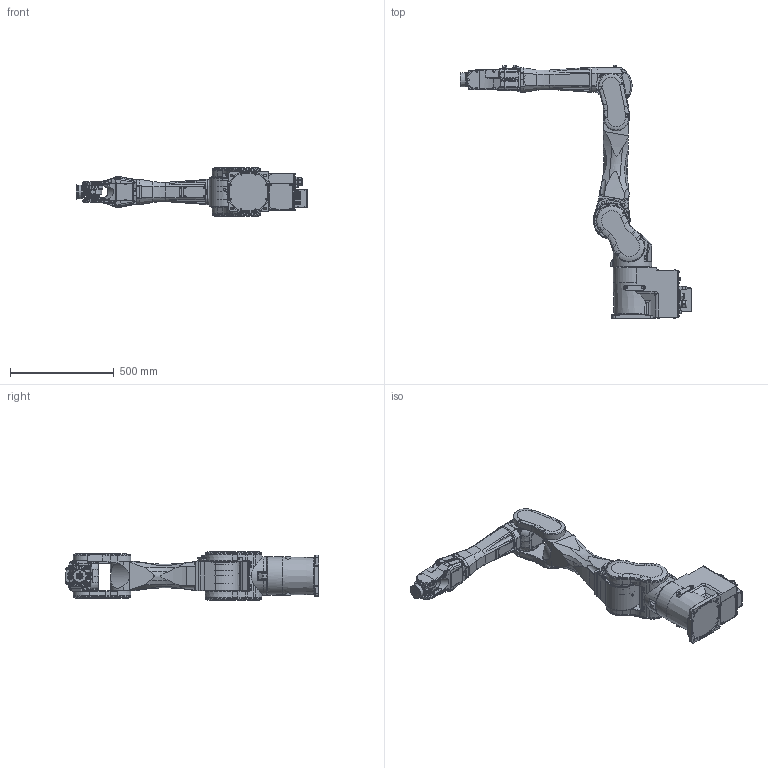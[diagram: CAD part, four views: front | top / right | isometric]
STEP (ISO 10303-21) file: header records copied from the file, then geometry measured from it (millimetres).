
FILE_DESCRIPTION(/* description */ ('STEP AP203'),/* implementation_level */ '2;1');
FILE_NAME(/* name */ 'C8-B1401S ',/* time_stamp */ '2025-09-25T09:48:56+02:00',/* author */ ('License CC BY-ND 4.0'),/* organization */ ('CADENAS'),/* preprocessor_version */ 'ST-DEVELOPER v19.3',/* originating_system */ 'PARTsolutions',/* authorisation */ ' ');
FILE_SCHEMA (('CONFIG_CONTROL_DESIGN'));
Products named in the file (8): C8-B1401S ; Base C8XLSR; J1 C8S; J2 C8XLS; J3 C8XLS (3); J4 C8XLS; J5 C8S; J6 C8S
Assembly tree (7 placements, depth 2):
  C8-B1401S 
    Base C8XLSR
    J1 C8S
    J2 C8XLS
    J3 C8XLS (3)
    J4 C8XLS
    J5 C8S
    J6 C8S
Bounding box: 1116.5 x 1222.49 x 236 mm (x, y, z)
Volume: 39439726.4 mm3; surface area: 2043652.9 mm2
Topology: 7 solids, 10 shells, 4054 faces, 10195 edges, 6608 vertices
Faces by surface type: plane 2219, cylinder 1142, cone 422, torus 226, sphere 45
Full cylindrical faces by diameter (mm): 1 x30, 2.459 x4, 3 x2, 3.242 x27, 3.3 x4, 4 x2, 4.134 x5, 4.5 x8, 5 x3, 5.4 x4, 5.5 x4, 6 x8, 7 x49, 7.554 x2, 7.9 x4, 8 x16, 8.5 x4, 9 x6, 9.5 x6, 10 x19, 10.106 x9, 10.2 x1, 10.4 x2, 11 x3, 12 x2, 13 x11, 14 x3, 16 x3, 17 x2, 17.8 x1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
Entity records: 146216 total; most frequent: CARTESIAN_POINT 23532, DIRECTION 19860, ORIENTED_EDGE 18590, EDGE_CURVE 9295, AXIS2_PLACEMENT_3D 7258, VERTEX_POINT 6454, LINE 5344, VECTOR 5344
